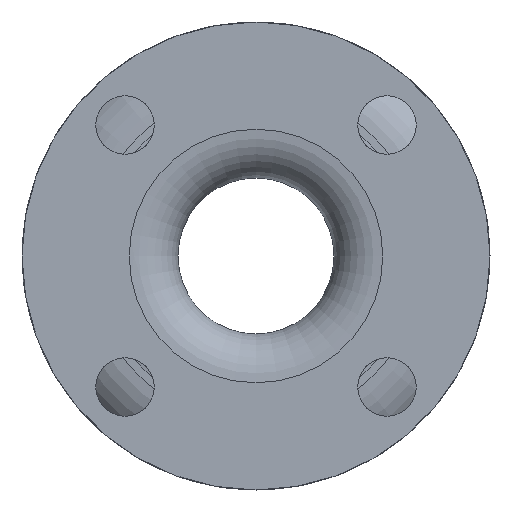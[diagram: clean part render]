
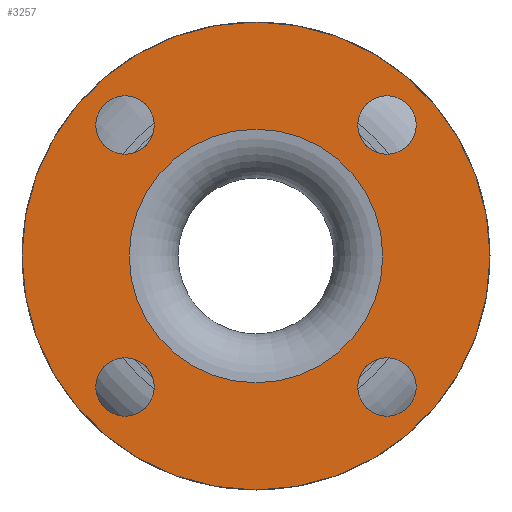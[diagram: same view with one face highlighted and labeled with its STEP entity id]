
A CAD part, left-side view. The second image highlights one B-rep face of the part: STEP entity #3257.
In plain terms, the highlighted planar face has unit normal (-1, 0, 0).
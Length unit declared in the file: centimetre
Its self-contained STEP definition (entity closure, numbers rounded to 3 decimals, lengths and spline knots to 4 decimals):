
#168=FACE_BOUND('',#575,.T.);
#169=FACE_BOUND('',#576,.T.);
#170=FACE_BOUND('',#577,.T.);
#171=FACE_BOUND('',#578,.T.);
#172=FACE_BOUND('',#579,.T.);
#173=FACE_BOUND('',#580,.T.);
#575=EDGE_LOOP('',(#2475));
#576=EDGE_LOOP('',(#2476));
#577=EDGE_LOOP('',(#2477));
#578=EDGE_LOOP('',(#2478));
#579=EDGE_LOOP('',(#2479));
#580=EDGE_LOOP('',(#2480));
#1152=CIRCLE('',#3541,0.9525);
#1154=CIRCLE('',#3544,0.9525);
#1156=CIRCLE('',#3547,0.9525);
#1158=CIRCLE('',#3550,0.9525);
#1178=CIRCLE('',#3585,4.1275);
#1179=CIRCLE('',#3587,7.62);
#1436=VERTEX_POINT('',#5355);
#1438=VERTEX_POINT('',#5360);
#1440=VERTEX_POINT('',#5365);
#1442=VERTEX_POINT('',#5370);
#1462=VERTEX_POINT('',#5425);
#1463=VERTEX_POINT('',#5428);
#1808=EDGE_CURVE('',#1436,#1436,#1152,.T.);
#1810=EDGE_CURVE('',#1438,#1438,#1154,.T.);
#1812=EDGE_CURVE('',#1440,#1440,#1156,.T.);
#1814=EDGE_CURVE('',#1442,#1442,#1158,.T.);
#1834=EDGE_CURVE('',#1462,#1462,#1178,.T.);
#1835=EDGE_CURVE('',#1463,#1463,#1179,.T.);
#2475=ORIENTED_EDGE('',*,*,#1808,.T.);
#2476=ORIENTED_EDGE('',*,*,#1810,.T.);
#2477=ORIENTED_EDGE('',*,*,#1812,.T.);
#2478=ORIENTED_EDGE('',*,*,#1814,.T.);
#2479=ORIENTED_EDGE('',*,*,#1835,.F.);
#2480=ORIENTED_EDGE('',*,*,#1834,.T.);
#2945=PLANE('',#3586);
#3257=ADVANCED_FACE('',(#168,#169,#170,#171,#172,#173),#2945,.T.);
#3541=AXIS2_PLACEMENT_3D('',#5356,#4253,#4254);
#3544=AXIS2_PLACEMENT_3D('',#5361,#4259,#4260);
#3547=AXIS2_PLACEMENT_3D('',#5366,#4265,#4266);
#3550=AXIS2_PLACEMENT_3D('',#5371,#4271,#4272);
#3585=AXIS2_PLACEMENT_3D('',#5426,#4341,#4342);
#3586=AXIS2_PLACEMENT_3D('',#5427,#4343,#4344);
#3587=AXIS2_PLACEMENT_3D('',#5429,#4345,#4346);
#4253=DIRECTION('center_axis',(1.,0.,0.));
#4254=DIRECTION('ref_axis',(0.,0.,1.));
#4259=DIRECTION('center_axis',(1.,0.,0.));
#4260=DIRECTION('ref_axis',(0.,1.,0.));
#4265=DIRECTION('center_axis',(1.,0.,0.));
#4266=DIRECTION('ref_axis',(0.,0.,-1.));
#4271=DIRECTION('center_axis',(1.,0.,0.));
#4272=DIRECTION('ref_axis',(0.,-1.,0.));
#4341=DIRECTION('center_axis',(1.,0.,0.));
#4342=DIRECTION('ref_axis',(0.,0.,-1.));
#4343=DIRECTION('center_axis',(-1.,0.,0.));
#4344=DIRECTION('ref_axis',(0.,0.,1.));
#4345=DIRECTION('center_axis',(1.,0.,0.));
#4346=DIRECTION('ref_axis',(0.,0.,-1.));
#5355=CARTESIAN_POINT('',(-12.7,-4.2656,-5.2181));
#5356=CARTESIAN_POINT('Origin',(-12.7,-4.2656,-4.2656));
#5360=CARTESIAN_POINT('',(-12.7,-5.2181,4.2656));
#5361=CARTESIAN_POINT('Origin',(-12.7,-4.2656,4.2656));
#5365=CARTESIAN_POINT('',(-12.7,4.2656,5.2181));
#5366=CARTESIAN_POINT('Origin',(-12.7,4.2656,4.2656));
#5370=CARTESIAN_POINT('',(-12.7,5.2181,-4.2656));
#5371=CARTESIAN_POINT('Origin',(-12.7,4.2656,-4.2656));
#5425=CARTESIAN_POINT('',(-12.7,4.1275,0.));
#5426=CARTESIAN_POINT('Origin',(-12.7,0.,0.));
#5427=CARTESIAN_POINT('Origin',(-12.7,7.62,0.));
#5428=CARTESIAN_POINT('',(-12.7,7.62,0.));
#5429=CARTESIAN_POINT('Origin',(-12.7,0.,0.));
